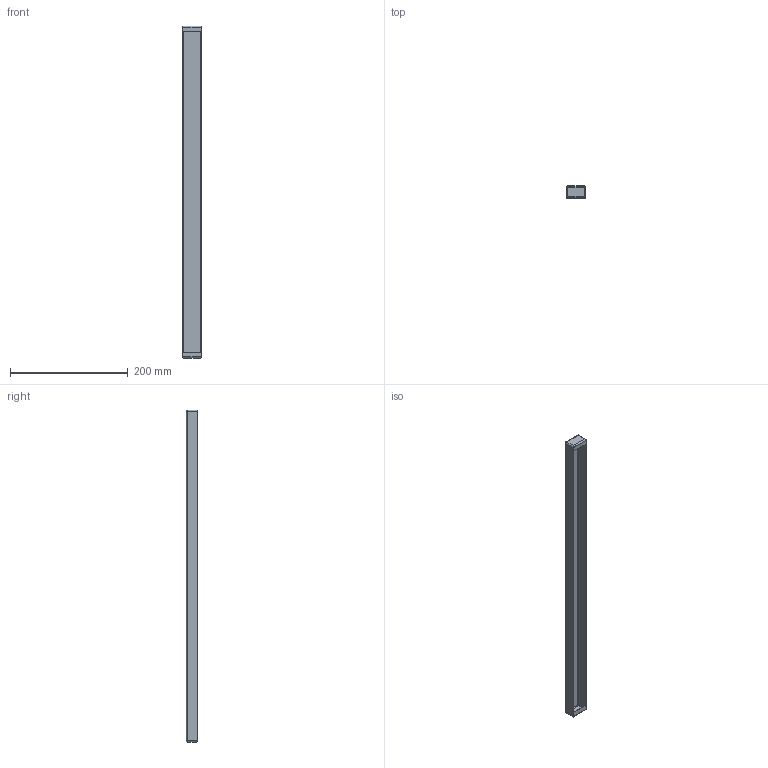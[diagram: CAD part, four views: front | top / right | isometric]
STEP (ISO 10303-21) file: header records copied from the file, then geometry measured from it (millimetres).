
FILE_DESCRIPTION (( 'STEP AP203' ), '1' );
FILE_NAME ('GB 60 RS Ïëàíêà çàùèòíàÿ èç íåðæ. ñòàëè.STEP', '2013-01-09T15:52:16', ( 'System' ), ( '' ), 'SwSTEP 2.0', 'SolidWorks 2012', '' );
FILE_SCHEMA (( 'CONFIG_CONTROL_DESIGN' ));
Length unit declared in the file: millimetre
Products named in the file (1): GB 60 RS Ïëàíêà çàùèòíàÿ èç íåðæ. ñòàëè
Bounding box: 32 x 20 x 564 mm (x, y, z)
Volume: 47832.7 mm3; surface area: 81104.7 mm2
Topology: 1 solids, 1 shells, 43 faces, 96 edges, 48 vertices
Faces by surface type: cylinder 20, plane 15, sphere 8
Entity records: 1167 total; most frequent: CARTESIAN_POINT 204, DIRECTION 192, ORIENTED_EDGE 176, EDGE_CURVE 88, AXIS2_PLACEMENT_3D 68, VECTOR 56, LINE 56, VERTEX_POINT 48
